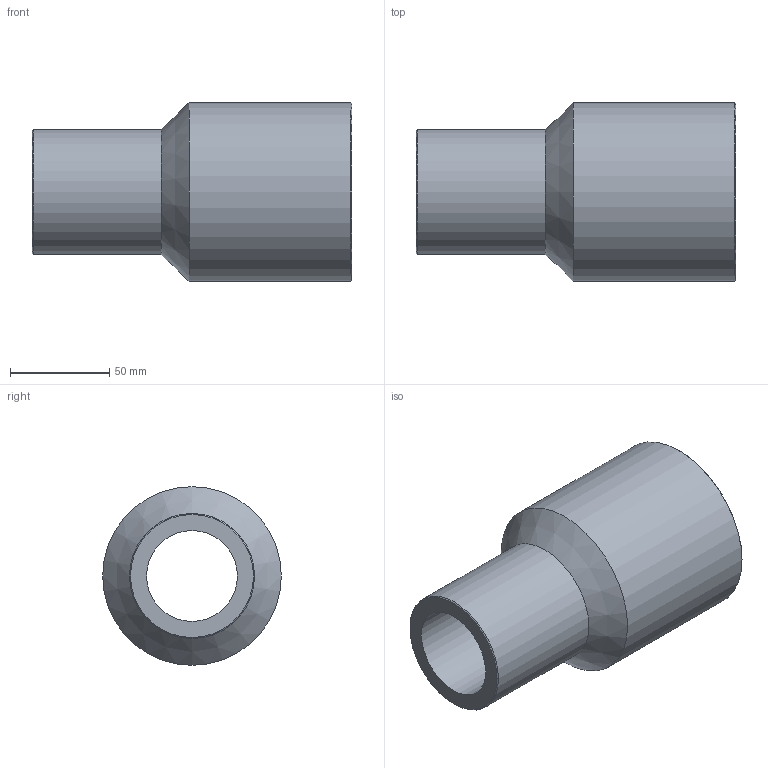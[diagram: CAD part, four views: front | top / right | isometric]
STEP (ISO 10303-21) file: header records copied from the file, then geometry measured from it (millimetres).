
FILE_DESCRIPTION(/* description */ ('Unknown'),/* implementation_level */ '2;1');
FILE_NAME(/* name */ 'RP090063H',/* time_stamp */ '2021-09-16T11:52:32+02:00',/* author */ ('Unknown'),/* organization */ ('Unknown'),/* preprocessor_version */ 'ST-DEVELOPER v16.7',/* originating_system */ 'Solid Edge',/* authorisation */ 'Unknown');
FILE_SCHEMA (('AUTOMOTIVE_DESIGN {1 0 10303 214 3 1 1}'));
Length unit declared in the file: millimetre
Products named in the file (1): RP090063H
Bounding box: 161 x 90 x 90 mm (x, y, z)
Volume: 383727.4 mm3; surface area: 73715.6 mm2
Topology: 1 solids, 1 shells, 10 faces, 19 edges, 11 vertices
Faces by surface type: cylinder 4, cone 4, plane 2
Full cylindrical faces by diameter (mm): 45.8 x1, 63 x1, 65.4 x1, 90 x1
Entity records: 238 total; most frequent: DIRECTION 42, CARTESIAN_POINT 31, AXIS2_PLACEMENT_3D 21, ORIENTED_EDGE 20, EDGE_LOOP 20, FACE_BOUND 20, EDGE_CURVE 10, VERTEX_POINT 10
